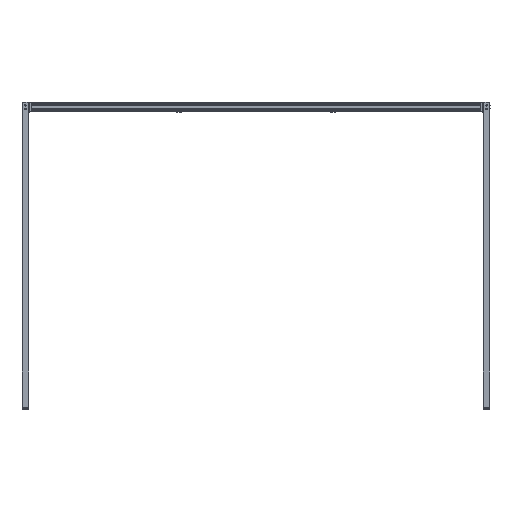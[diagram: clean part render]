
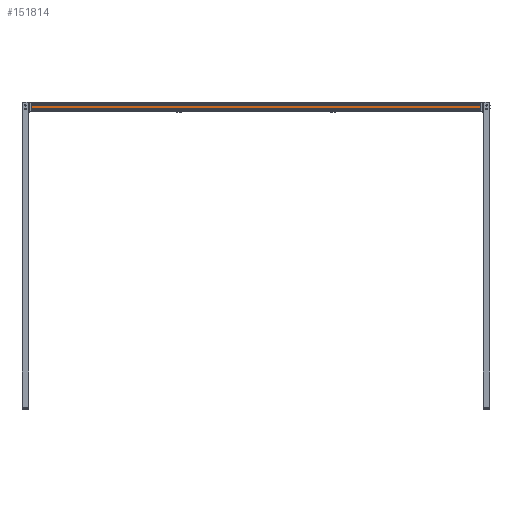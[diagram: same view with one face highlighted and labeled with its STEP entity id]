
A CAD part, front view. The second image highlights one B-rep face of the part: STEP entity #151814.
In plain terms, the highlighted planar face has unit normal (0, -1, 0).
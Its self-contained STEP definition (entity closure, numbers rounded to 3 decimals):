
#7888 = CARTESIAN_POINT ( 'NONE',  ( 4492., -7886.5, 455.646 ) ) ;
#11627 = DIRECTION ( 'NONE',  ( 0., 1., 0. ) ) ;
#24276 = VERTEX_POINT ( 'NONE', #38296 ) ;
#31262 = DIRECTION ( 'NONE',  ( 0., 0., -1. ) ) ;
#33063 = PLANE ( 'NONE',  #175823 ) ;
#38296 = CARTESIAN_POINT ( 'NONE',  ( 4492., -7886.5, 371.646 ) ) ;
#40923 = ORIENTED_EDGE ( 'NONE', *, *, #213447, .T. ) ;
#46036 = VECTOR ( 'NONE', #31262, 1000. ) ;
#52154 = ORIENTED_EDGE ( 'NONE', *, *, #246271, .F. ) ;
#75635 = VECTOR ( 'NONE', #146177, 1000. ) ;
#85245 = CARTESIAN_POINT ( 'NONE',  ( 4492., -7886.5, 451.784 ) ) ;
#85876 = LINE ( 'NONE', #154462, #127305 ) ;
#86670 = DIRECTION ( 'NONE',  ( 0., 0., 1. ) ) ;
#97483 = EDGE_CURVE ( 'NONE', #24276, #221183, #239500, .T. ) ;
#101620 = CARTESIAN_POINT ( 'NONE',  ( 6540., -7886.5, 413.646 ) ) ;
#127305 = VECTOR ( 'NONE', #193085, 1000. ) ;
#146177 = DIRECTION ( 'NONE',  ( -1., 0., 0. ) ) ;
#151814 = ADVANCED_FACE ( 'NONE', ( #228804 ), #33063, .F. ) ;
#154462 = CARTESIAN_POINT ( 'NONE',  ( 8588., -7886.5, 455.646 ) ) ;
#159803 = EDGE_CURVE ( 'NONE', #181338, #274121, #227014, .T. ) ;
#175823 = AXIS2_PLACEMENT_3D ( 'NONE', #101620, #11627, #188764 ) ;
#181338 = VERTEX_POINT ( 'NONE', #207850 ) ;
#187651 = CARTESIAN_POINT ( 'NONE',  ( 8588., -7886.5, 371.646 ) ) ;
#188741 = EDGE_LOOP ( 'NONE', ( #52154, #256064, #40923, #271051 ) ) ;
#188764 = DIRECTION ( 'NONE',  ( -1., 0., 0. ) ) ;
#193085 = DIRECTION ( 'NONE',  ( -1., 0., 0. ) ) ;
#202767 = CARTESIAN_POINT ( 'NONE',  ( 8588., -7886.5, 371.646 ) ) ;
#207850 = CARTESIAN_POINT ( 'NONE',  ( 8588., -7886.5, 455.646 ) ) ;
#213447 = EDGE_CURVE ( 'NONE', #181338, #221183, #85876, .T. ) ;
#221183 = VERTEX_POINT ( 'NONE', #7888 ) ;
#227014 = LINE ( 'NONE', #229801, #46036 ) ;
#228804 = FACE_OUTER_BOUND ( 'NONE', #188741, .T. ) ;
#229801 = CARTESIAN_POINT ( 'NONE',  ( 8588., -7886.5, 451.784 ) ) ;
#239500 = LINE ( 'NONE', #85245, #273140 ) ;
#246271 = EDGE_CURVE ( 'NONE', #274121, #24276, #271976, .T. ) ;
#256064 = ORIENTED_EDGE ( 'NONE', *, *, #159803, .F. ) ;
#271051 = ORIENTED_EDGE ( 'NONE', *, *, #97483, .F. ) ;
#271976 = LINE ( 'NONE', #187651, #75635 ) ;
#273140 = VECTOR ( 'NONE', #86670, 1000. ) ;
#274121 = VERTEX_POINT ( 'NONE', #202767 ) ;
